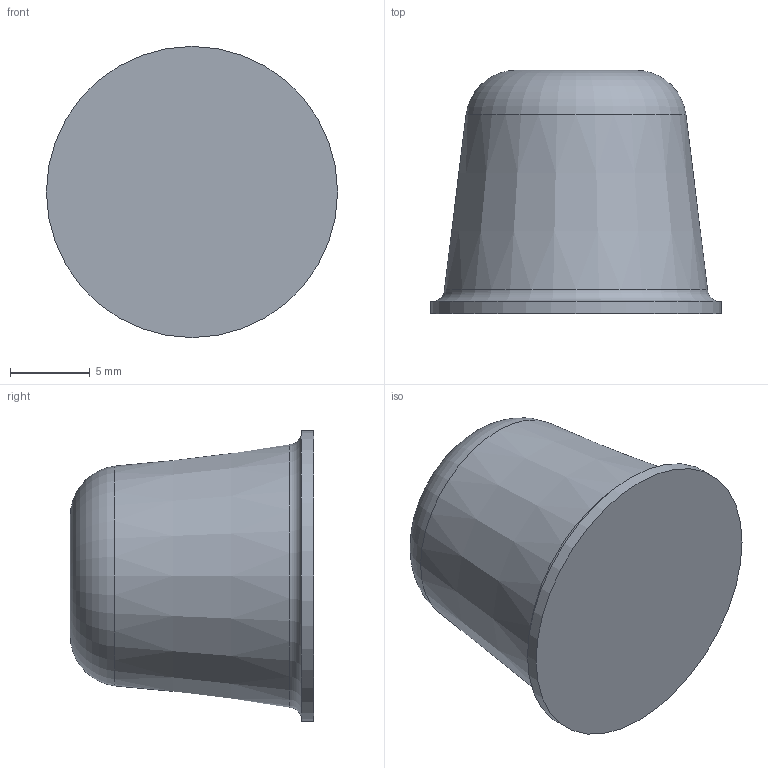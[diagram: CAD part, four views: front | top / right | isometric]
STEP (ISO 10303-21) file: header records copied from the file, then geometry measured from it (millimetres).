
FILE_DESCRIPTION(/* description */ (''),/* implementation_level */ '2;1');
FILE_NAME(/* name */ 'C:/Users/Mark/Downloads/STEP Files/BS28.step',/* time_stamp */ '2020-02-10T11:34:59-05:00',/* author */ (''),/* organization */ (''),/* preprocessor_version */ 'ST-DEVELOPER v18',/* originating_system */ 'Autodesk Translation Framework v8.12.0.6',/* authorisation */ '');
FILE_SCHEMA (('AUTOMOTIVE_DESIGN { 1 0 10303 214 3 1 1 }'));
Length unit declared in the file: inch
Products named in the file (1): BS28
Bounding box: 18.24 x 15.24 x 18.24 mm (x, y, z)
Volume: 2670.9 mm3; surface area: 1105.8 mm2
Topology: 1 solids, 1 shells, 6 faces, 17 edges, 13 vertices
Faces by surface type: plane 2, torus 2, cone 1, cylinder 1
Full cylindrical faces by diameter (mm): 18.237 x1
Entity records: 251 total; most frequent: DIRECTION 46, CARTESIAN_POINT 37, ORIENTED_EDGE 34, AXIS2_PLACEMENT_3D 22, EDGE_CURVE 17, CIRCLE 15, VERTEX_POINT 13, FACE_OUTER_BOUND 6
